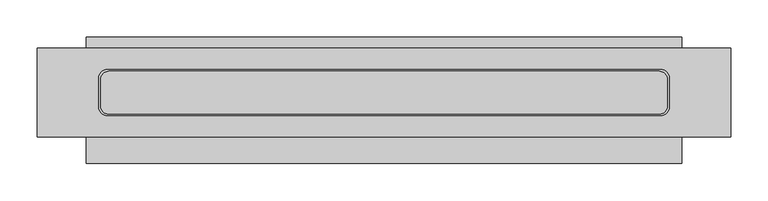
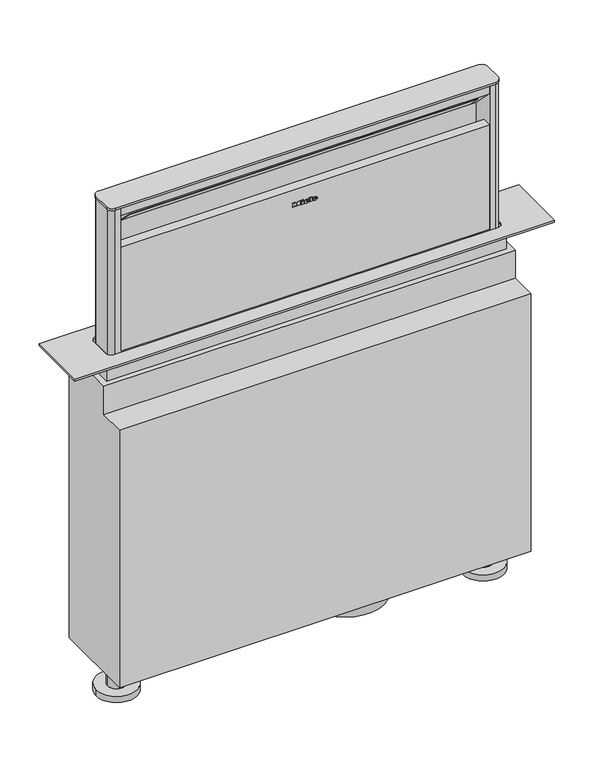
"""IFC4 building model written with IfcOpenShell, lengths in millimetres: proxy geometry, 12963320_CH_DAD6980_OBSW : 28D6980B_CH_12963320_DAD6980_OBSW."""

from ifc_helpers import new_model, si_unit, point, frame, frame_2d, origin, origin_with_axes, place, context, project, spatial, polyline, circle_curve, ellipse_curve, trimmed, segment, composite_curve, outline, extrude, faceted_brep, source, transform, mapped, element, save
from ifc_brep_helpers import plane_surface, cylinder_surface, revolved_surface, extruded_surface, advanced_brep


def specialty_equipment_d9378c4a(model_context):
    return source(origin(), model_context, "Body", "SolidModel", [
        extrude(outline(polyline([(190.696, -25.0), (190.696, -24.032), (185.344, -24.032), (185.344, -25.0), (184.0, -25.0), (184.0, -21.48), (185.344, -21.48), (185.344, -22.44), (188.7471247, -22.44), (184.0, -18.864), (188.8152223, -15.272), (185.344, -15.272), (185.344, -16.256), (184.0, -16.256), (184.0, -9.872), (185.344, -9.872), (185.344, -10.888), (190.696, -10.888), (190.696, -9.872), (192.0, -9.872), (192.0, -14.744), (189.0, -17.08), (192.0, -19.424), (192.0, -25.0), (190.696, -25.0)])), frame((0.0, -104.0, 0.0), z_axis=(0.0, 1.0, 0.0), x_axis=(0.0, 0.0, 1.0)), (0.0, 0.0, 1.0), 1.0),
        extrude(outline(polyline([(190.696, 7.464), (190.696, 8.424), (185.344, 8.424), (185.344, 7.464), (184.0, 7.464), (184.0, 13.952), (185.344, 13.952), (185.344, 12.968), (192.0, 12.968), (192.0, 7.464), (190.696, 7.464)])), frame((0.0, -104.0, 0.0), z_axis=(0.0, 1.0, 0.0), x_axis=(0.0, 0.0, 1.0)), (0.0, 0.0, 1.0), 1.0),
        extrude(outline(polyline([(191.528, -7.08), (190.232, -6.472), (191.496, -3.76), (192.792, -4.36), (191.528, -7.08)])), frame((0.0, -104.0, 0.0), z_axis=(0.0, 1.0, 0.0), x_axis=(0.0, 0.0, 1.0)), (0.0, 0.0, 1.0), 1.0),
        extrude(outline(polyline([(190.056, -9.056), (188.624, -9.056), (188.624, -8.104), (185.344, -8.104), (185.344, -9.056), (184.0, -9.056), (184.0, -2.744), (185.344, -2.744), (185.344, -3.672), (190.056, -3.672), (190.056, -9.056)])), frame((0.0, -104.0, 0.0), z_axis=(0.0, 1.0, 0.0), x_axis=(0.0, 0.0, 1.0)), (0.0, 0.0, 1.0), 1.0),
        advanced_brep(
        [(1.664, -104.0, 185.896), (1.664, -104.0, 186.704), (7.016, -104.0, 186.704), (-2.296, -104.0, 186.704), (-0.096, -104.0, 184.0), (6.88, -104.0, 185.896), (4.464, -104.0, 185.896), (2.56, -104.0, 185.0), (1.664, -104.0, 187.728), (1.664, -104.0, 188.6), (3.032, -104.0, 188.6), (3.032, -104.0, 187.728), (1.664, -103.0, 185.896), (2.56, -103.0, 185.0), (4.464, -103.0, 185.896), (6.88, -103.0, 185.896), (-0.096, -103.0, 184.0), (-2.296, -103.0, 186.704), (7.016, -103.0, 186.704), (1.664, -103.0, 186.704), (1.664, -103.0, 187.728), (3.032, -103.0, 187.728), (3.032, -103.0, 188.6), (1.664, -103.0, 188.6)],
        [
            (0, 1),
            (1, 2),
            (2, 3, ellipse_curve(frame((2.36, -104.0, 186.704), z_axis=(0.0, -1.0, 0.0), x_axis=(-1.0, 0.0, 0.0)), 4.656, 3.848)),
            (3, 4, circle_curve(frame((0.8000436, -104.0, 186.976), z_axis=(0.0, -1.0, 0.0), x_axis=(0.0, 0.0, -1.0)), 3.1079688)),
            (4, 5, circle_curve(frame((2.2667936, -104.0, 189.088), z_axis=(0.0, -1.0, 0.0), x_axis=(0.0, 0.0, -1.0)), 5.6098607)),
            (5, 6),
            (6, 7, circle_curve(frame((2.9510588, -104.0, 186.64), z_axis=(0.0, 1.0, 0.0), x_axis=(0.0, 0.0, -1.0)), 1.6859795)),
            (7, 0, circle_curve(frame((2.56, -104.0, 185.896), z_axis=(0.0, 1.0, 0.0), x_axis=(0.0, 0.0, -1.0)), 0.896)),
            (8, 9),
            (9, 10, circle_curve(frame((2.348, -104.0, 188.6), z_axis=(0.0, 1.0, 0.0), x_axis=(0.0, 0.0, -1.0)), 0.684)),
            (10, 11),
            (11, 8),
            (12, 13, circle_curve(frame((2.56, -103.0, 185.896), z_axis=(0.0, -1.0, 0.0), x_axis=(0.0, 0.0, -1.0)), 0.896)),
            (13, 14, circle_curve(frame((2.9510588, -103.0, 186.64), z_axis=(0.0, -1.0, 0.0), x_axis=(0.0, 0.0, -1.0)), 1.6859795)),
            (14, 15),
            (15, 16, circle_curve(frame((2.2667936, -103.0, 189.088), z_axis=(0.0, 1.0, 0.0), x_axis=(0.0, 0.0, -1.0)), 5.6098607)),
            (16, 17, circle_curve(frame((0.8000436, -103.0, 186.976), z_axis=(0.0, 1.0, 0.0), x_axis=(0.0, 0.0, -1.0)), 3.1079688)),
            (17, 18, ellipse_curve(frame((2.36, -103.0, 186.704), z_axis=(0.0, 1.0, 0.0), x_axis=(-1.0, 0.0, 0.0)), 4.656, 3.848)),
            (18, 19),
            (19, 12),
            (20, 21),
            (21, 22),
            (22, 23, circle_curve(frame((2.348, -103.0, 188.6), z_axis=(0.0, -1.0, 0.0), x_axis=(0.0, 0.0, -1.0)), 0.684)),
            (23, 20),
            (0, 12),
            (19, 1),
            (18, 2),
            (5, 15),
            (14, 6),
            (17, 3),
            (13, 7),
            (16, 4),
            (8, 20),
            (23, 9),
            (22, 10),
            (21, 11),
        ],
        [
            plane_surface(frame((1.664, -104.0, 186.704), z_axis=(0.0, -1.0, 0.0), x_axis=(0.0, 0.0, 1.0))),
            plane_surface(frame((1.664, -103.0, 186.704), z_axis=(0.0, 1.0, 0.0), x_axis=(0.0, 0.0, -1.0))),
            plane_surface(frame((1.664, -104.0, 185.896), z_axis=(1.0, 0.0, 0.0), x_axis=(0.0, 1.0, 0.0))),
            plane_surface(frame((1.664, -104.0, 186.704), z_axis=(0.0, 0.0, -1.0), x_axis=(0.0, 1.0, 0.0))),
            plane_surface(frame((6.88, -104.0, 185.896), z_axis=(0.0, 0.0, 1.0), x_axis=(0.0, 1.0, 0.0))),
            extruded_surface(trimmed(ellipse_curve(frame((2.36, -102.0, 186.704), z_axis=(0.0, -1.0, 0.0), x_axis=(-1.0, 0.0, 0.0)), 4.656, 3.848), [point((7.016, -102.0, 186.704))], [point((-2.296, -102.0, 186.704))], True, "CARTESIAN"), (0.0, -1.0, 0.0), 1.0),
            revolved_surface(polyline([(2.9510588, -103.0, 184.95402049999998), (2.9510588, -104.0, 184.95402049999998)]), (2.9510588, -103.0, 186.64), (0.0, 1.0, 0.0)),
            revolved_surface(polyline([(2.56, -103.0, 185.0), (2.56, -104.0, 185.0)]), (2.56, -103.0, 185.896), (0.0, 1.0, 0.0)),
            cylinder_surface(frame((0.8000436, -103.0, 186.976), z_axis=(0.0, -1.0, 0.0), x_axis=(0.0, 0.0, -1.0)), 3.1079688),
            cylinder_surface(frame((2.2667936, -103.0, 189.088), z_axis=(0.0, -1.0, 0.0), x_axis=(0.0, 0.0, -1.0)), 5.6098607),
            plane_surface(frame((1.664, -104.0, 187.728), z_axis=(1.0, 0.0, 0.0), x_axis=(0.0, 1.0, 0.0))),
            revolved_surface(polyline([(2.348, -103.0, 187.916), (2.348, -104.0, 187.916)]), (2.348, -103.0, 188.6), (0.0, 1.0, 0.0)),
            plane_surface(frame((3.032, -104.0, 188.6), z_axis=(-1.0, 0.0, 0.0), x_axis=(0.0, 1.0, 0.0))),
            plane_surface(frame((3.032, -104.0, 187.728), z_axis=(0.0, 0.0, 1.0), x_axis=(0.0, 1.0, 0.0))),
        ],
        [
            (0, [[1, 2, 3, 4, 5, 6, 7, 8], [9, 10, 11, 12]]),
            (1, [[13, 14, 15, 16, 17, 18, 19, 20], [21, 22, 23, 24]]),
            (2, [[-1, 25, -20, 26]]),
            (3, [[-2, -26, -19, 27]]),
            (4, [[-6, 28, -15, 29]]),
            (5, [[-3, -27, -18, 30]]),
            (6, [[-7, -29, -14, 31]]),
            (7, [[-8, -31, -13, -25]]),
            (8, [[-4, -30, -17, 32]]),
            (9, [[-5, -32, -16, -28]]),
            (10, [[-9, 33, -24, 34]]),
            (11, [[-10, -34, -23, 35]]),
            (12, [[-11, -35, -22, 36]]),
            (13, [[-12, -36, -21, -33]]),
        ],
    ),
        advanced_brep(
        [(18.36, -104.0, 185.896), (18.36, -104.0, 186.704), (23.712, -104.0, 186.704), (14.4, -104.0, 186.704), (16.6, -104.0, 184.0), (23.576, -104.0, 185.896), (21.16, -104.0, 185.896), (19.256, -104.0, 185.0), (18.36, -104.0, 187.728), (18.36, -104.0, 188.6), (19.728, -104.0, 188.6), (19.728, -104.0, 187.728), (18.36, -103.0, 185.896), (19.256, -103.0, 185.0), (21.16, -103.0, 185.896), (23.576, -103.0, 185.896), (16.6, -103.0, 184.0), (14.4, -103.0, 186.704), (23.712, -103.0, 186.704), (18.36, -103.0, 186.704), (18.36, -103.0, 187.728), (19.728, -103.0, 187.728), (19.728, -103.0, 188.6), (18.36, -103.0, 188.6)],
        [
            (0, 1),
            (1, 2),
            (2, 3, ellipse_curve(frame((19.056, -104.0, 186.704), z_axis=(0.0, -1.0, 0.0), x_axis=(-1.0, 0.0, 0.0)), 4.656, 3.848)),
            (3, 4, circle_curve(frame((17.4960436, -104.0, 186.976), z_axis=(0.0, -1.0, 0.0), x_axis=(0.0, 0.0, -1.0)), 3.1079688)),
            (4, 5, circle_curve(frame((18.9627936, -104.0, 189.088), z_axis=(0.0, -1.0, 0.0), x_axis=(0.0, 0.0, -1.0)), 5.6098607)),
            (5, 6),
            (6, 7, circle_curve(frame((19.6470588, -104.0, 186.64), z_axis=(0.0, 1.0, 0.0), x_axis=(0.0, 0.0, -1.0)), 1.6859795)),
            (7, 0, circle_curve(frame((19.256, -104.0, 185.896), z_axis=(0.0, 1.0, 0.0), x_axis=(0.0, 0.0, -1.0)), 0.896)),
            (8, 9),
            (9, 10, circle_curve(frame((19.044, -104.0, 188.6), z_axis=(0.0, 1.0, 0.0), x_axis=(0.0, 0.0, -1.0)), 0.684)),
            (10, 11),
            (11, 8),
            (12, 13, circle_curve(frame((19.256, -103.0, 185.896), z_axis=(0.0, -1.0, 0.0), x_axis=(0.0, 0.0, -1.0)), 0.896)),
            (13, 14, circle_curve(frame((19.6470588, -103.0, 186.64), z_axis=(0.0, -1.0, 0.0), x_axis=(0.0, 0.0, -1.0)), 1.6859795)),
            (14, 15),
            (15, 16, circle_curve(frame((18.9627936, -103.0, 189.088), z_axis=(0.0, 1.0, 0.0), x_axis=(0.0, 0.0, -1.0)), 5.6098607)),
            (16, 17, circle_curve(frame((17.4960436, -103.0, 186.976), z_axis=(0.0, 1.0, 0.0), x_axis=(0.0, 0.0, -1.0)), 3.1079688)),
            (17, 18, ellipse_curve(frame((19.056, -103.0, 186.704), z_axis=(0.0, 1.0, 0.0), x_axis=(-1.0, 0.0, 0.0)), 4.656, 3.848)),
            (18, 19),
            (19, 12),
            (20, 21),
            (21, 22),
            (22, 23, circle_curve(frame((19.044, -103.0, 188.6), z_axis=(0.0, -1.0, 0.0), x_axis=(0.0, 0.0, -1.0)), 0.684)),
            (23, 20),
            (0, 12),
            (19, 1),
            (18, 2),
            (5, 15),
            (14, 6),
            (17, 3),
            (13, 7),
            (16, 4),
            (8, 20),
            (23, 9),
            (22, 10),
            (21, 11),
        ],
        [
            plane_surface(frame((18.36, -104.0, 186.704), z_axis=(0.0, -1.0, 0.0), x_axis=(0.0, 0.0, 1.0))),
            plane_surface(frame((18.36, -103.0, 186.704), z_axis=(0.0, 1.0, 0.0), x_axis=(0.0, 0.0, -1.0))),
            plane_surface(frame((18.36, -104.0, 185.896), z_axis=(1.0, 0.0, 0.0), x_axis=(0.0, 1.0, 0.0))),
            plane_surface(frame((18.36, -104.0, 186.704), z_axis=(0.0, 0.0, -1.0), x_axis=(0.0, 1.0, 0.0))),
            plane_surface(frame((23.576, -104.0, 185.896), z_axis=(0.0, 0.0, 1.0), x_axis=(0.0, 1.0, 0.0))),
            extruded_surface(trimmed(ellipse_curve(frame((19.056, -102.0, 186.704), z_axis=(0.0, -1.0, 0.0), x_axis=(-1.0, 0.0, 0.0)), 4.656, 3.848), [point((23.712, -102.0, 186.704))], [point((14.4, -102.0, 186.704))], True, "CARTESIAN"), (0.0, -1.0, 0.0), 1.0),
            revolved_surface(polyline([(19.6470588, -103.0, 184.95402049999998), (19.6470588, -104.0, 184.95402049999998)]), (19.6470588, -103.0, 186.64), (0.0, 1.0, 0.0)),
            revolved_surface(polyline([(19.256, -103.0, 185.0), (19.256, -104.0, 185.0)]), (19.256, -103.0, 185.896), (0.0, 1.0, 0.0)),
            cylinder_surface(frame((17.4960436, -103.0, 186.976), z_axis=(0.0, -1.0, 0.0), x_axis=(0.0, 0.0, -1.0)), 3.1079688),
            cylinder_surface(frame((18.9627936, -103.0, 189.088), z_axis=(0.0, -1.0, 0.0), x_axis=(0.0, 0.0, -1.0)), 5.6098607),
            plane_surface(frame((18.36, -104.0, 187.728), z_axis=(1.0, 0.0, 0.0), x_axis=(0.0, 1.0, 0.0))),
            revolved_surface(polyline([(19.044, -103.0, 187.916), (19.044, -104.0, 187.916)]), (19.044, -103.0, 188.6), (0.0, 1.0, 0.0)),
            plane_surface(frame((19.728, -104.0, 188.6), z_axis=(-1.0, 0.0, 0.0), x_axis=(0.0, 1.0, 0.0))),
            plane_surface(frame((19.728, -104.0, 187.728), z_axis=(0.0, 0.0, 1.0), x_axis=(0.0, 1.0, 0.0))),
        ],
        [
            (0, [[1, 2, 3, 4, 5, 6, 7, 8], [9, 10, 11, 12]]),
            (1, [[13, 14, 15, 16, 17, 18, 19, 20], [21, 22, 23, 24]]),
            (2, [[-1, 25, -20, 26]]),
            (3, [[-2, -26, -19, 27]]),
            (4, [[-6, 28, -15, 29]]),
            (5, [[-3, -27, -18, 30]]),
            (6, [[-7, -29, -14, 31]]),
            (7, [[-8, -31, -13, -25]]),
            (8, [[-4, -30, -17, 32]]),
            (9, [[-5, -32, -16, -28]]),
            (10, [[-9, 33, -24, 34]]),
            (11, [[-10, -34, -23, 35]]),
            (12, [[-11, -35, -22, 36]]),
            (13, [[-12, -36, -21, -33]]),
        ],
    ),
        extrude(outline(composite_curve([segment(trimmed(circle_curve(frame_2d((89.2, -85.8647958)), 75.0), [point((14.2, -85.8647958))], [point((164.2, -85.8647958))], False, "CARTESIAN"), True, "CONTINUOUS"), segment(trimmed(circle_curve(frame_2d((89.2, -85.8647958)), 75.0), [point((164.2, -85.8647958))], [point((14.2, -85.8647958))], False, "CARTESIAN"), True, "CONTINUOUS")], self_intersect=False)), frame((0.0, 0.0, -659.0), z_axis=(0.0, 0.0, 1.0), x_axis=(1.0, 0.0, 0.0)), (0.0, 0.0, 1.0), 25.0),
        extrude(outline(composite_curve([segment(trimmed(circle_curve(frame_2d((371.1814118, -57.4008786)), 11.0228003), [point((371.1814118, -46.3780783))], [point((382.2042121, -57.4008786))], False, "CARTESIAN"), True, "CONTINUOUS"), segment(polyline([(382.2042121, -57.4008786), (382.2042121, -93.3997352)]), True, "CONTINUOUS"), segment(trimmed(circle_curve(frame_2d((371.225869, -93.3997352)), 10.9783431), [point((382.2042121, -93.3997352))], [point((371.225869, -104.3780783))], False, "CARTESIAN"), True, "CONTINUOUS"), segment(polyline([(371.225869, -104.3780783), (-371.2377642, -104.3780783)]), True, "CONTINUOUS"), segment(trimmed(circle_curve(frame_2d((-371.2377642, -93.4116304)), 10.9664479), [point((-371.2377642, -104.3780783))], [point((-382.2042121, -93.4116304))], False, "CARTESIAN"), True, "CONTINUOUS"), segment(polyline([(-382.2042121, -93.4116304), (-382.2042121, -57.3636674)]), True, "CONTINUOUS"), segment(trimmed(circle_curve(frame_2d((-371.218623, -57.3636674)), 10.9855891), [point((-382.2042121, -57.3636674))], [point((-371.218623, -46.3780783))], False, "CARTESIAN"), True, "CONTINUOUS"), segment(polyline([(-371.218623, -46.3780783), (371.1814118, -46.3780783)]), True, "CONTINUOUS")], self_intersect=False)), frame((0.0, 0.0, 299.5725648), z_axis=(0.0, 0.0, 1.0), x_axis=(1.0, 0.0, 0.0)), (0.0, 0.0, 1.0), 4.4274352),
        advanced_brep(
        [(371.2042121, -47.3780783, 299.5725648), (-371.2042121, -47.3780783, 299.5725648), (-381.2042121, -57.3780783, 299.5725648), (-381.2042121, -93.3780783, 299.5725648), (-371.2042121, -103.3780783, 299.5725648), (-359.9100986, -103.3780783, 299.5725648), (-359.9100986, -103.1609893, 299.5725648), (359.9100986, -103.1609893, 299.5725648), (359.9100986, -103.3780783, 299.5725648), (371.2042121, -103.3780783, 299.5725648), (381.2042121, -93.3780783, 299.5725648), (381.2042121, -57.3780783, 299.5725648), (371.2042121, -47.3780783, 0.0), (381.2042121, -57.3780783, 0.0), (381.2042121, -93.3780783, 0.0), (371.2042121, -103.3780783, 0.0), (-371.2042121, -103.3780783, 0.0), (-381.2042121, -93.3780783, 0.0), (-381.2042121, -57.3780783, 0.0), (-371.2042121, -47.3780783, 0.0), (359.9100986, -103.3780783, 4.0), (-359.9100986, -103.3780783, 4.0), (359.9100986, -58.0, 237.9815659), (359.9100986, -58.0, 147.0), (359.9100986, -79.1055209, 147.0), (359.9100986, -85.0, 219.0), (359.9100986, -103.1609893, 219.0), (359.9100986, -103.1609893, 4.0), (359.9100986, -103.1609893, 283.1425552), (-359.9100986, -85.0, 219.0), (-359.9100986, -79.1055209, 147.0), (-359.9100986, -58.0, 147.0), (-359.9100986, -58.0, 237.9815659), (-359.9100986, -103.1609893, 283.1425552), (-359.9100986, -103.1609893, 4.0), (-359.9100986, -103.1609893, 219.0)],
        [
            (0, 1),
            (1, 2, circle_curve(frame((-371.2042121, -57.3780783, 299.5725648), z_axis=(0.0, 0.0, 1.0), x_axis=(1.0, 0.0, 0.0)), 10.0)),
            (2, 3),
            (3, 4, circle_curve(frame((-371.2042121, -93.3780783, 299.5725648), z_axis=(0.0, 0.0, 1.0), x_axis=(1.0, 0.0, 0.0)), 10.0)),
            (4, 5),
            (5, 6),
            (6, 7),
            (7, 8),
            (8, 9),
            (9, 10, circle_curve(frame((371.2042121, -93.3780783, 299.5725648), z_axis=(0.0, 0.0, 1.0), x_axis=(1.0, 0.0, 0.0)), 10.0)),
            (10, 11),
            (11, 0, circle_curve(frame((371.2042121, -57.3780783, 299.5725648), z_axis=(0.0, 0.0, 1.0), x_axis=(1.0, 0.0, 0.0)), 10.0)),
            (12, 13, circle_curve(frame((371.2042121, -57.3780783, 0.0), z_axis=(0.0, 0.0, -1.0), x_axis=(1.0, 0.0, 0.0)), 10.0)),
            (13, 14),
            (14, 15, circle_curve(frame((371.2042121, -93.3780783, 0.0), z_axis=(0.0, 0.0, -1.0), x_axis=(1.0, 0.0, 0.0)), 10.0)),
            (15, 16),
            (16, 17, circle_curve(frame((-371.2042121, -93.3780783, 0.0), z_axis=(0.0, 0.0, -1.0), x_axis=(1.0, 0.0, 0.0)), 10.0)),
            (17, 18),
            (18, 19, circle_curve(frame((-371.2042121, -57.3780783, 0.0), z_axis=(0.0, 0.0, -1.0), x_axis=(1.0, 0.0, 0.0)), 10.0)),
            (19, 12),
            (0, 12),
            (19, 1),
            (2, 18),
            (17, 3),
            (15, 9),
            (8, 20),
            (20, 21),
            (21, 5),
            (4, 16),
            (10, 14),
            (13, 11),
            (22, 23),
            (23, 24),
            (24, 25),
            (25, 26),
            (26, 27),
            (27, 20),
            (7, 28),
            (28, 22),
            (29, 30),
            (30, 31),
            (31, 32),
            (32, 33),
            (33, 6),
            (21, 34),
            (34, 35),
            (35, 29),
            (32, 22),
            (28, 33),
            (25, 29),
            (35, 26),
            (24, 30),
            (23, 31),
            (34, 27),
        ],
        [
            plane_surface(frame((-371.2042121, -47.3780783, 299.5725648), z_axis=(0.0, 0.0, 1.0), x_axis=(-1.0, 0.0, 0.0))),
            plane_surface(frame((-371.2042121, -47.3780783, 0.0), z_axis=(0.0, 0.0, -1.0), x_axis=(1.0, 0.0, 0.0))),
            plane_surface(frame((371.2042121, -47.3780783, 299.5725648), z_axis=(0.0, 1.0, 0.0), x_axis=(0.0, 0.0, -1.0))),
            plane_surface(frame((-381.2042121, -57.3780783, 299.5725648), z_axis=(-1.0, 0.0, 0.0), x_axis=(0.0, 0.0, -1.0))),
            plane_surface(frame((-371.2042121, -103.3780783, 299.5725648), z_axis=(0.0, -1.0, 0.0), x_axis=(0.0, 0.0, -1.0))),
            plane_surface(frame((381.2042121, -93.3780783, 299.5725648), z_axis=(1.0, 0.0, 0.0), x_axis=(0.0, 0.0, -1.0))),
            cylinder_surface(frame((-371.2042121, -57.3780783, 0.0), z_axis=(0.0, 0.0, 1.0), x_axis=(1.0, 0.0, 0.0)), 10.0),
            cylinder_surface(frame((-371.2042121, -93.3780783, 0.0), z_axis=(0.0, 0.0, 1.0), x_axis=(1.0, 0.0, 0.0)), 10.0),
            cylinder_surface(frame((371.2042121, -93.3780783, 0.0), z_axis=(0.0, 0.0, 1.0), x_axis=(1.0, 0.0, 0.0)), 10.0),
            cylinder_surface(frame((371.2042121, -57.3780783, 0.0), z_axis=(0.0, 0.0, 1.0), x_axis=(1.0, 0.0, 0.0)), 10.0),
            plane_surface(frame((359.9100986, -94.4708552, 274.4524211), z_axis=(-1.0, 0.0, 0.0), x_axis=(0.0, -0.7071067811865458, 0.7071067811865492))),
            plane_surface(frame((-359.9100986, -94.4708552, 274.4524211), z_axis=(1.0, 0.0, 0.0), x_axis=(0.0, 0.7071067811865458, -0.7071067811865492))),
            plane_surface(frame((359.9100986, -58.0, 237.9815659), z_axis=(0.0, -0.7071067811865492, -0.7071067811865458), x_axis=(-1.0, 0.0, 0.0))),
            plane_surface(frame((359.9100986, -103.3780783, 219.0), z_axis=(0.0, 0.0, 1.0), x_axis=(-1.0, 0.0, 0.0))),
            plane_surface(frame((359.9100986, -85.0, 219.0), z_axis=(0.0, 0.9966655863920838, 0.08159478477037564), x_axis=(-1.0, 0.0, 0.0))),
            plane_surface(frame((359.9100986, -79.1055209, 147.0), z_axis=(0.0, 0.0, 1.0), x_axis=(-1.0, 0.0, 0.0))),
            plane_surface(frame((359.9100986, -58.0, 147.0), z_axis=(0.0, -1.0, 0.0), x_axis=(-1.0, 0.0, 0.0))),
            plane_surface(frame((268.1830979, -103.1609893, 4.0), z_axis=(0.0, -1.0, 0.0), x_axis=(-1.0, 0.0, 0.0))),
            plane_surface(frame((-359.9100986, -103.3780783, 4.0), z_axis=(0.0, 0.0, 1.0), x_axis=(0.0, 1.0, 0.0))),
        ],
        [
            (0, [[1, 2, 3, 4, 5, 6, 7, 8, 9, 10, 11, 12]]),
            (1, [[13, 14, 15, 16, 17, 18, 19, 20]]),
            (2, [[-1, 21, -20, 22]]),
            (3, [[-3, 23, -18, 24]]),
            (4, [[-16, 25, -9, 26, 27, 28, -5, 29]]),
            (5, [[-11, 30, -14, 31]]),
            (6, [[-2, -22, -19, -23]]),
            (7, [[-4, -24, -17, -29]]),
            (8, [[-10, -25, -15, -30]]),
            (9, [[-12, -31, -13, -21]]),
            (10, [[32, 33, 34, 35, 36, 37, -26, -8, 38, 39]]),
            (11, [[40, 41, 42, 43, 44, -6, -28, 45, 46, 47]]),
            (12, [[48, -39, 49, -43]]),
            (13, [[50, -47, 51, -35]]),
            (14, [[-34, 52, -40, -50]]),
            (15, [[-33, 53, -41, -52]]),
            (16, [[-32, -48, -42, -53]]),
            (17, [[-38, -7, -44, -49]]),
            (17, [[54, -36, -51, -46]]),
            (18, [[-54, -45, -27, -37]]),
        ],
    ),
        faceted_brep([(401.4936189, -32.3, -45.0), (-401.4936189, -32.3, -45.0), (-401.4936189, -117.7, -45.0), (401.4936189, -117.7, -45.0), (-390.0, -43.0, -45.0), (390.0, -43.0, -45.0), (390.0, -107.0, -45.0), (-390.0, -107.0, -45.0), (401.4936189, 0.0, -634.0), (401.4936189, -171.0, -634.0), (-401.4936189, -171.0, -634.0), (-401.4936189, 0.0, -634.0), (-401.4936189, 0.0, -85.0), (401.4936189, 0.0, -85.0), (401.4936189, -171.0, -103.0), (-401.4936189, -171.0, -103.0), (390.0, -43.0, 0.0), (-390.0, -43.0, 0.0), (-390.0, -107.0, 0.0), (390.0, -107.0, 0.0), (-401.4936189, -117.7, -103.0), (-401.4936189, -32.3, -85.0), (401.4936189, -32.3, -85.0), (401.4936189, -117.7, -103.0)], [[[0, 1, 2, 3], [4, 5, 6, 7]], [[8, 9, 10, 11]], [[8, 11, 12, 13]], [[10, 9, 14, 15]], [[16, 17, 18, 19]], [[17, 16, 5, 4]], [[18, 17, 4, 7]], [[19, 18, 7, 6]], [[16, 19, 6, 5]], [[11, 10, 15, 20, 2, 1, 21, 12]], [[9, 8, 13, 22, 0, 3, 23, 14]], [[23, 20, 15, 14]], [[20, 23, 3, 2]], [[22, 21, 1, 0]], [[21, 22, 13, 12]]]),
        extrude(outline(polyline([(468.0, -15.0), (468.0, -135.0), (-468.0, -135.0), (-468.0, -15.0), (468.0, -15.0)]), holes=[composite_curve([segment(polyline([(373.1343386, -44.0), (-373.0956327, -44.0)]), True, "CONTINUOUS"), segment(trimmed(circle_curve(frame_2d((-373.0956327, -56.0)), 12.0), [point((-373.0956327, -44.0))], [point((-385.0956327, -56.0))], True, "CARTESIAN"), True, "CONTINUOUS"), segment(polyline([(-385.0956327, -56.0), (-385.0956327, -94.0)]), True, "CONTINUOUS"), segment(trimmed(circle_curve(frame_2d((-373.0956327, -94.0)), 12.0), [point((-385.0956327, -94.0))], [point((-373.0956327, -106.0))], True, "CARTESIAN"), True, "CONTINUOUS"), segment(polyline([(-373.0956327, -106.0), (373.0753112, -106.0)]), True, "CONTINUOUS"), segment(trimmed(circle_curve(frame_2d((373.0753112, -93.9796784)), 12.0203216), [point((373.0753112, -106.0))], [point((385.0956327, -93.9796784))], True, "CARTESIAN"), True, "CONTINUOUS"), segment(polyline([(385.0956327, -93.9796784), (385.0956327, -55.9612941)]), True, "CONTINUOUS"), segment(trimmed(circle_curve(frame_2d((373.1343386, -55.9612941)), 11.9612941), [point((385.0956327, -55.9612941))], [point((373.1343386, -44.0))], True, "CARTESIAN"), True, "CONTINUOUS")], self_intersect=False)]), origin_with_axes(), (0.0, 0.0, 1.0), 4.0),
        extrude(outline(polyline([(36.0, 0.0), (36.0, -680.0), (0.0, -680.0), (0.0, 0.0), (36.0, 0.0)])), frame((-337.8937642, -94.5300953, 272.3903409), z_axis=(0.0, 0.7071067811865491, 0.707106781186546), x_axis=(0.0, 0.707106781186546, -0.7071067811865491)), (0.0, 0.0, 1.0), 1.5),
        advanced_brep(
        [(317.7840925, -85.0, -704.0), (397.7840925, -85.0, -704.0), (317.7840925, -85.0, -691.0), (397.7840925, -85.0, -691.0), (375.2840925, -85.0, -691.0), (340.2840925, -85.0, -691.0), (340.2840925, -85.0, -634.0), (375.2840925, -85.0, -634.0)],
        [
            (0, 1, circle_curve(frame((357.7840925, -85.0, -704.0), z_axis=(0.0, 0.0, -1.0), x_axis=(1.0, 0.0, 0.0)), 40.0)),
            (1, 0, circle_curve(frame((357.7840925, -85.0, -704.0), z_axis=(0.0, 0.0, -1.0), x_axis=(1.0, 0.0, 0.0)), 40.0)),
            (2, 3, circle_curve(frame((357.7840925, -85.0, -691.0), z_axis=(0.0, 0.0, 1.0), x_axis=(1.0, 0.0, 0.0)), 40.0)),
            (3, 2, circle_curve(frame((357.7840925, -85.0, -691.0), z_axis=(0.0, 0.0, 1.0), x_axis=(1.0, 0.0, 0.0)), 40.0)),
            (4, 5, circle_curve(frame((357.7840925, -85.0, -691.0), z_axis=(0.0, 0.0, -1.0), x_axis=(1.0, 0.0, 0.0)), 17.5)),
            (5, 4, circle_curve(frame((357.7840925, -85.0, -691.0), z_axis=(0.0, 0.0, -1.0), x_axis=(1.0, 0.0, 0.0)), 17.5)),
            (1, 3),
            (2, 0),
            (6, 7, circle_curve(frame((357.7840925, -85.0, -634.0), z_axis=(0.0, 0.0, 1.0), x_axis=(1.0, 0.0, 0.0)), 17.5)),
            (7, 6, circle_curve(frame((357.7840925, -85.0, -634.0), z_axis=(0.0, 0.0, 1.0), x_axis=(1.0, 0.0, 0.0)), 17.5)),
            (6, 5),
            (4, 7),
        ],
        [
            plane_surface(frame((397.7840925, -85.0, -704.0), z_axis=(0.0, 0.0, -1.0), x_axis=(0.0, -1.0, 0.0))),
            plane_surface(frame((397.7840925, -85.0, -691.0), z_axis=(0.0, 0.0, 1.0), x_axis=(0.0, 1.0, 0.0))),
            cylinder_surface(frame((357.7840925, -85.0, -704.0), z_axis=(0.0, 0.0, 1.0), x_axis=(1.0, 0.0, 0.0)), 40.0),
            plane_surface(frame((375.2840925, -85.0, -634.0), z_axis=(0.0, 0.0, 1.0), x_axis=(0.0, 1.0, 0.0))),
            cylinder_surface(frame((357.7840925, -85.0, -704.0), z_axis=(0.0, 0.0, 1.0), x_axis=(1.0, 0.0, 0.0)), 17.5),
        ],
        [
            (0, [[1, 2]]),
            (1, [[3, 4], [5, 6]]),
            (2, [[-2, 7, -3, 8]]),
            (2, [[-1, -8, -4, -7]]),
            (3, [[9, 10]]),
            (4, [[-9, 11, -5, 12]]),
            (4, [[-10, -12, -6, -11]]),
        ],
    ),
        advanced_brep(
        [(-397.7840925, -85.0, -704.0), (-317.7840925, -85.0, -704.0), (-397.7840925, -85.0, -691.0), (-317.7840925, -85.0, -691.0), (-340.2840925, -85.0, -691.0), (-375.2840925, -85.0, -691.0), (-375.2840925, -85.0, -634.0), (-340.2840925, -85.0, -634.0)],
        [
            (0, 1, circle_curve(frame((-357.7840925, -85.0, -704.0), z_axis=(0.0, 0.0, -1.0), x_axis=(1.0, 0.0, 0.0)), 40.0)),
            (1, 0, circle_curve(frame((-357.7840925, -85.0, -704.0), z_axis=(0.0, 0.0, -1.0), x_axis=(1.0, 0.0, 0.0)), 40.0)),
            (2, 3, circle_curve(frame((-357.7840925, -85.0, -691.0), z_axis=(0.0, 0.0, 1.0), x_axis=(1.0, 0.0, 0.0)), 40.0)),
            (3, 2, circle_curve(frame((-357.7840925, -85.0, -691.0), z_axis=(0.0, 0.0, 1.0), x_axis=(1.0, 0.0, 0.0)), 40.0)),
            (4, 5, circle_curve(frame((-357.7840925, -85.0, -691.0), z_axis=(0.0, 0.0, -1.0), x_axis=(1.0, 0.0, 0.0)), 17.5)),
            (5, 4, circle_curve(frame((-357.7840925, -85.0, -691.0), z_axis=(0.0, 0.0, -1.0), x_axis=(1.0, 0.0, 0.0)), 17.5)),
            (1, 3),
            (2, 0),
            (6, 7, circle_curve(frame((-357.7840925, -85.0, -634.0), z_axis=(0.0, 0.0, 1.0), x_axis=(1.0, 0.0, 0.0)), 17.5)),
            (7, 6, circle_curve(frame((-357.7840925, -85.0, -634.0), z_axis=(0.0, 0.0, 1.0), x_axis=(1.0, 0.0, 0.0)), 17.5)),
            (6, 5),
            (4, 7),
        ],
        [
            plane_surface(frame((397.7840925, -85.0, -704.0), z_axis=(0.0, 0.0, -1.0), x_axis=(0.0, -1.0, 0.0))),
            plane_surface(frame((397.7840925, -85.0, -691.0), z_axis=(0.0, 0.0, 1.0), x_axis=(0.0, 1.0, 0.0))),
            cylinder_surface(frame((-357.7840925, -85.0, 0.0), z_axis=(0.0, 0.0, 1.0), x_axis=(1.0, 0.0, 0.0)), 40.0),
            plane_surface(frame((375.2840925, -85.0, -634.0), z_axis=(0.0, 0.0, 1.0), x_axis=(0.0, 1.0, 0.0))),
            cylinder_surface(frame((-357.7840925, -85.0, 0.0), z_axis=(0.0, 0.0, 1.0), x_axis=(1.0, 0.0, 0.0)), 17.5),
        ],
        [
            (0, [[1, 2]]),
            (1, [[3, 4], [5, 6]]),
            (2, [[-2, 7, -3, 8]]),
            (2, [[-1, -8, -4, -7]]),
            (3, [[9, 10]]),
            (4, [[-9, 11, -5, 12]]),
            (4, [[-10, -12, -6, -11]]),
        ],
    ),
        extrude(outline(polyline([(128.1229997, -107.0940037), (121.4888611, -107.0940037), (115.7499019, -91.3977052), (95.0626711, -91.3977052), (89.3114492, -107.0940037), (82.6773106, -107.0940037), (102.7268793, -56.8658486), (108.073431, -56.8658486), (128.1229997, -107.0940037)]), holes=[polyline([(113.4445081, -85.1191858), (108.5271521, -71.691493), (105.4001551, -63.144368), (101.8807507, -72.7706135), (97.3558022, -85.1191858), (113.4445081, -85.1191858)])]), frame((0.0, 0.0, -664.0), z_axis=(0.0, 0.0, 1.0), x_axis=(1.0, 0.0, 0.0)), (0.0, 0.0, 1.0), 5.0),
        extrude(outline(polyline([(75.9695955, -107.0940037), (44.5769986, -107.0940037), (44.5769986, -100.8154843), (69.6910761, -100.8154843), (69.6910761, -56.8658486), (75.9695955, -56.8658486), (75.9695955, -107.0940037)])), frame((0.0, 0.0, -664.0), z_axis=(0.0, 0.0, 1.0), x_axis=(1.0, 0.0, 0.0)), (0.0, 0.0, 1.0), 5.0),
        extrude(outline(composite_curve([segment(trimmed(circle_curve(frame_2d((-234.0, -18.0)), 7.5), [point((-241.5, -18.0))], [point((-226.5, -18.0))], False, "CARTESIAN"), True, "CONTINUOUS"), segment(trimmed(circle_curve(frame_2d((-234.0, -18.0)), 7.5), [point((-226.5, -18.0))], [point((-241.5, -18.0))], False, "CARTESIAN"), True, "CONTINUOUS")], self_intersect=False)), frame((0.0, 0.0, -648.6593305), z_axis=(0.0, 0.0, 1.0), x_axis=(1.0, 0.0, 0.0)), (0.0, 0.0, 1.0), 14.6593305),
        extrude(outline(polyline([(-226.6227397, -22.8890246), (-234.0, -22.8890246), (-234.0, -21.6333207), (-227.8784436, -21.6333207), (-227.8784436, -18.337098), (-233.529111, -18.337098), (-233.529111, -17.0813942), (-227.8784436, -17.0813942), (-227.8784436, -14.0990974), (-233.843037, -14.0990974), (-233.843037, -12.8433936), (-226.6227397, -12.8433936), (-226.6227397, -22.8890246)])), frame((0.0, 0.0, -649.6593305), z_axis=(0.0, 0.0, 1.0), x_axis=(1.0, 0.0, 0.0)), (0.0, 0.0, 1.0), 1.0),
        extrude(outline(polyline([(-235.8835558, -22.8890246), (-242.1620752, -22.8890246), (-242.1620752, -21.6333207), (-237.1392597, -21.6333207), (-237.1392597, -12.8433936), (-235.8835558, -12.8433936), (-235.8835558, -22.8890246)])), frame((0.0, 0.0, -649.6593305), z_axis=(0.0, 0.0, 1.0), x_axis=(1.0, 0.0, 0.0)), (0.0, 0.0, 1.0), 1.0),
    ])


if __name__ == "__main__":
    model = new_model("IFC4")
    model_context = context("Model", 3, world=origin())
    ifc_project = project(units=[si_unit("LENGTHUNIT", "METRE", prefix="MILLI")], contexts=[model_context])
    site = spatial("IfcSite", under=ifc_project)
    building = spatial("IfcBuilding", under=site)
    placement = place(None, origin())
    specialty_equipment_shape = specialty_equipment_d9378c4a(model_context)
    element("IfcBuildingElementProxy", 1, Name="12963320_CH_DAD6980_OBSW : 28D6980B_CH_12963320_DAD6980_OBSW", ObjectType="12963320_CH_DAD6980_OBSW : 28D6980B_CH_12963320_DAD6980_OBSW", at=placement, inside=building, context=model_context, shape_type="MappedRepresentation", body=[
        mapped(specialty_equipment_shape, transform((0.0, 0.0, 0.0), x_axis=(1.0, 0.0, 0.0), y_axis=(0.0, 1.0, 0.0), z_axis=(0.0, 0.0, 1.0))),
    ])
    save(model, "model.ifc")
